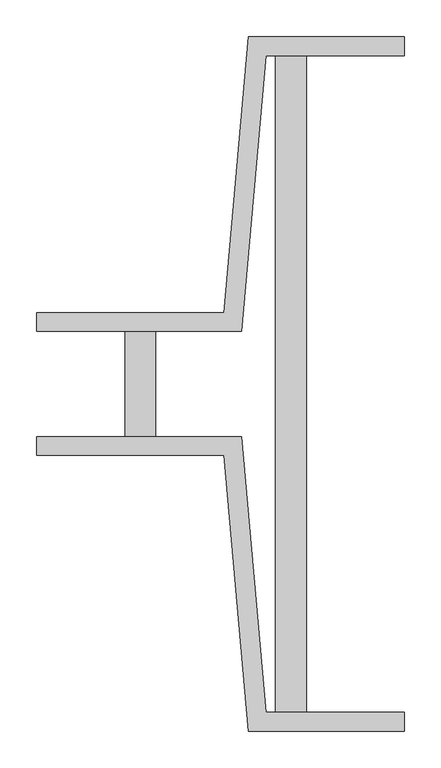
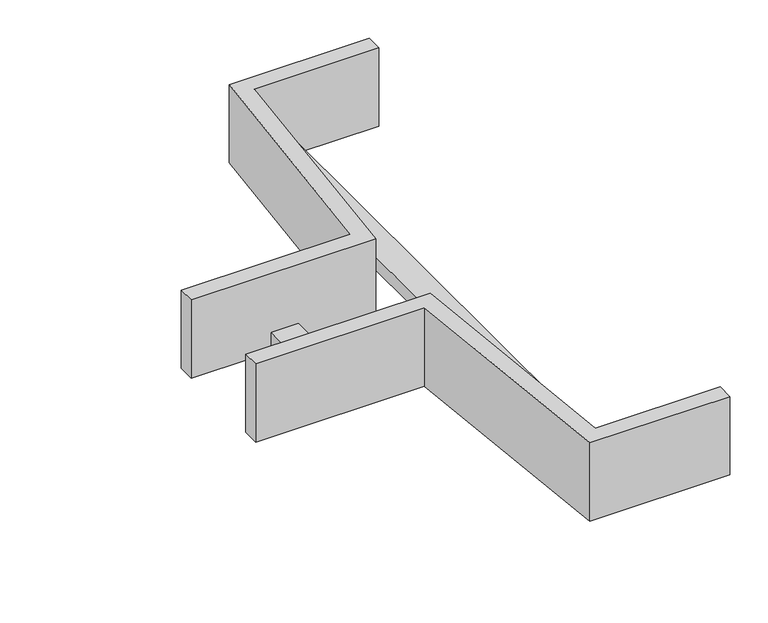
"""IFC4 building model written with IfcOpenShell, lengths in millimetres: cable carrier fitting geometry, Legrand_CableLadder_Swifts_Sapphire_Reducer-13 : Straight - Hot Dip Galvanised (after manufacture)."""

from ifc_helpers import new_model, si_unit, frame, origin, place, context, project, spatial, polyline, outline, extrude, source, transform, mapped, element, save


def cable_carrier_fitting_8b4ef095(model_context):
    return source(origin(), model_context, "Body", "SweptSolid", [
        extrude(outline(polyline([(-250.0, 71.5), (-250.0, 97.0), (5.1522299, 97.0), (38.3281838, 472.0), (250.0, 472.0), (250.0, 446.5), (61.6718162, 446.5), (28.4958623, 71.5), (-250.0, 71.5)])), frame((0.0, 0.0, -62.5), z_axis=(0.0, 0.0, 1.0), x_axis=(1.0, 0.0, 0.0)), (0.0, 0.0, 1.0), 125.0),
        extrude(outline(polyline([(-250.0, -97.0), (-250.0, -71.5), (28.4958623, -71.5), (61.6718162, -446.5), (250.0, -446.5), (250.0, -472.0), (38.3281838, -472.0), (5.1522299, -97.0), (-250.0, -97.0)])), frame((0.0, 0.0, -62.5), z_axis=(0.0, 0.0, 1.0), x_axis=(1.0, 0.0, 0.0)), (0.0, 0.0, 1.0), 125.0),
        extrude(outline(polyline([(117.0, 446.5), (117.0, -446.5), (75.0, -446.5), (75.0, 446.5), (117.0, 446.5)])), frame((0.0, 0.0, -52.5), z_axis=(0.0, 0.0, 1.0), x_axis=(1.0, 0.0, 0.0)), (0.0, 0.0, 1.0), 21.0),
        extrude(outline(polyline([(-130.0, -71.5), (-130.0, 71.5), (-88.0, 71.5), (-88.0, -71.5), (-130.0, -71.5)])), frame((0.0, 0.0, -52.5), z_axis=(0.0, 0.0, 1.0), x_axis=(1.0, 0.0, 0.0)), (0.0, 0.0, 1.0), 21.0),
    ])


if __name__ == "__main__":
    model = new_model("IFC4")
    model_context = context("Model", 3, world=origin())
    ifc_project = project(units=[si_unit("LENGTHUNIT", "METRE", prefix="MILLI")], contexts=[model_context])
    site = spatial("IfcSite", under=ifc_project)
    building = spatial("IfcBuilding", under=site)
    placement = place(None, origin())
    cable_carrier_fitting_shape = cable_carrier_fitting_8b4ef095(model_context)
    element("IfcCableCarrierFitting", 1, ObjectType="Legrand_CableLadder_Swifts_Sapphire_Reducer-13 : Straight - Hot Dip Galvanised (after manufacture)", at=placement, inside=building, context=model_context, shape_type="MappedRepresentation", body=[
        mapped(cable_carrier_fitting_shape, transform((0.0, 0.0, 0.0), x_axis=(1.0, 0.0, 0.0), y_axis=(0.0, 1.0, 0.0), z_axis=(0.0, 0.0, 1.0))),
    ])
    save(model, "model.ifc")
